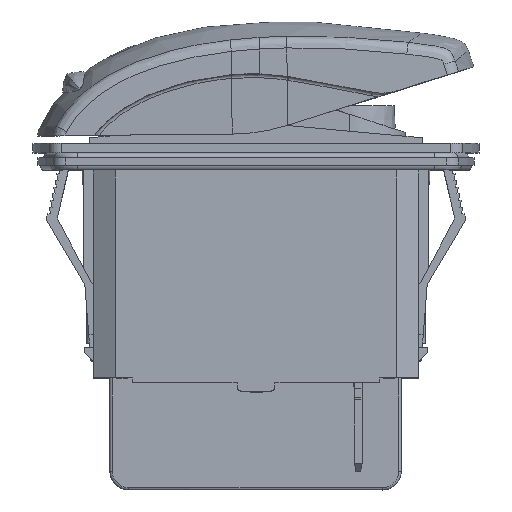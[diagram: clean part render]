
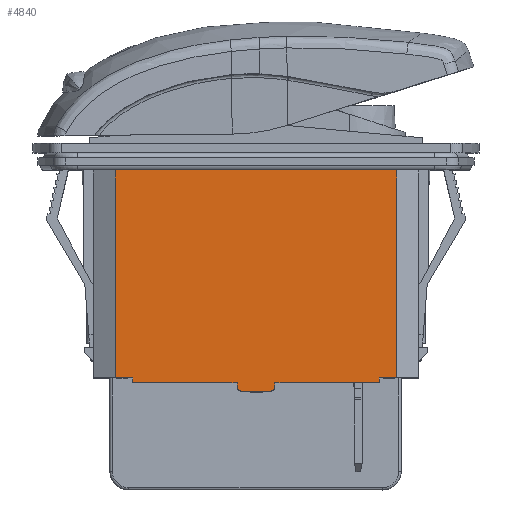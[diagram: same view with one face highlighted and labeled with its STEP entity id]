
A CAD part, top view. The second image highlights one B-rep face of the part: STEP entity #4840.
In plain terms, the highlighted planar face has unit normal (0, 0, 1).
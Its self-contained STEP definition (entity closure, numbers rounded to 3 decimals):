
#451=DIRECTION('',(1.,0.,0.));
#452=VECTOR('',#451,11.);
#453=CARTESIAN_POINT('',(2.,-24.2,10.4));
#454=LINE('',#453,#452);
#463=DIRECTION('',(1.,0.,0.));
#464=VECTOR('',#463,11.);
#465=CARTESIAN_POINT('',(-13.,-24.2,10.4));
#466=LINE('',#465,#464);
#487=DIRECTION('',(0.,1.,0.));
#488=VECTOR('',#487,0.5);
#489=CARTESIAN_POINT('',(13.,-24.2,10.4));
#490=LINE('',#489,#488);
#653=DIRECTION('',(0.,1.,0.));
#654=VECTOR('',#653,0.4);
#655=CARTESIAN_POINT('',(-2.,-24.6,10.4));
#656=LINE('',#655,#654);
#657=DIRECTION('',(0.,1.,0.));
#658=VECTOR('',#657,0.5);
#659=CARTESIAN_POINT('',(-13.,-24.2,10.4));
#660=LINE('',#659,#658);
#661=DIRECTION('',(-1.,0.,0.));
#662=VECTOR('',#661,1.812);
#663=CARTESIAN_POINT('',(-13.,-23.7,10.4));
#664=LINE('',#663,#662);
#665=DIRECTION('',(1.,0.,0.));
#666=VECTOR('',#665,29.623);
#667=CARTESIAN_POINT('',(-14.812,0.,10.4));
#668=LINE('',#667,#666);
#669=DIRECTION('',(0.,-1.,0.));
#670=VECTOR('',#669,23.7);
#671=CARTESIAN_POINT('',(14.812,0.,10.4));
#672=LINE('',#671,#670);
#673=DIRECTION('',(-1.,0.,0.));
#674=VECTOR('',#673,1.812);
#675=CARTESIAN_POINT('',(14.812,-23.7,10.4));
#676=LINE('',#675,#674);
#677=DIRECTION('',(0.,-1.,0.));
#678=VECTOR('',#677,0.4);
#679=CARTESIAN_POINT('',(2.,-24.2,10.4));
#680=LINE('',#679,#678);
#681=CARTESIAN_POINT('',(1.5,-24.6,10.4));
#682=DIRECTION('',(0.,0.,-1.));
#683=DIRECTION('',(1.,0.,0.));
#684=AXIS2_PLACEMENT_3D('',#681,#682,#683);
#686=DIRECTION('',(-1.,0.,0.));
#687=VECTOR('',#686,3.);
#688=CARTESIAN_POINT('',(1.5,-25.1,10.4));
#689=LINE('',#688,#687);
#690=CARTESIAN_POINT('',(-1.5,-24.6,10.4));
#691=DIRECTION('',(0.,0.,-1.));
#692=DIRECTION('',(0.,-1.,0.));
#693=AXIS2_PLACEMENT_3D('',#690,#691,#692);
#695=DIRECTION('',(0.,-1.,0.));
#696=VECTOR('',#695,23.7);
#697=CARTESIAN_POINT('',(-14.812,0.,10.4));
#698=LINE('',#697,#696);
#2983=CARTESIAN_POINT('',(-14.812,0.,10.4));
#2984=CARTESIAN_POINT('',(14.812,0.,10.4));
#2985=VERTEX_POINT('',#2983);
#2986=VERTEX_POINT('',#2984);
#3183=CARTESIAN_POINT('',(-14.812,-23.7,10.4));
#3184=VERTEX_POINT('',#3183);
#3185=CARTESIAN_POINT('',(-13.,-23.7,10.4));
#3186=VERTEX_POINT('',#3185);
#3233=CARTESIAN_POINT('',(13.,-23.7,10.4));
#3234=VERTEX_POINT('',#3233);
#3235=CARTESIAN_POINT('',(14.812,-23.7,10.4));
#3236=VERTEX_POINT('',#3235);
#3423=CARTESIAN_POINT('',(-1.5,-25.1,10.4));
#3424=VERTEX_POINT('',#3423);
#3425=CARTESIAN_POINT('',(1.5,-25.1,10.4));
#3426=VERTEX_POINT('',#3425);
#3477=CARTESIAN_POINT('',(-13.,-24.2,10.4));
#3478=VERTEX_POINT('',#3477);
#3497=CARTESIAN_POINT('',(2.,-24.2,10.4));
#3498=VERTEX_POINT('',#3497);
#3499=CARTESIAN_POINT('',(13.,-24.2,10.4));
#3500=VERTEX_POINT('',#3499);
#3501=CARTESIAN_POINT('',(-2.,-24.2,10.4));
#3502=VERTEX_POINT('',#3501);
#3511=CARTESIAN_POINT('',(2.,-24.6,10.4));
#3512=VERTEX_POINT('',#3511);
#3513=CARTESIAN_POINT('',(-2.,-24.6,10.4));
#3514=VERTEX_POINT('',#3513);
#4815=CARTESIAN_POINT('',(-17.15,-23.7,10.4));
#4816=DIRECTION('',(0.,0.,1.));
#4817=DIRECTION('',(1.,0.,0.));
#4818=AXIS2_PLACEMENT_3D('',#4815,#4816,#4817);
#4819=PLANE('',#4818);
#4820=ORIENTED_EDGE('',*,*,#4783,.T.);
#4821=ORIENTED_EDGE('',*,*,#4558,.F.);
#4822=ORIENTED_EDGE('',*,*,#4488,.T.);
#4823=ORIENTED_EDGE('',*,*,#4088,.T.);
#4825=ORIENTED_EDGE('',*,*,#4824,.F.);
#4827=ORIENTED_EDGE('',*,*,#4826,.T.);
#4829=ORIENTED_EDGE('',*,*,#4828,.T.);
#4830=ORIENTED_EDGE('',*,*,#4112,.T.);
#4831=ORIENTED_EDGE('',*,*,#4589,.F.);
#4832=ORIENTED_EDGE('',*,*,#4544,.F.);
#4833=ORIENTED_EDGE('',*,*,#4648,.T.);
#4835=ORIENTED_EDGE('',*,*,#4834,.T.);
#4836=ORIENTED_EDGE('',*,*,#4172,.T.);
#4837=ORIENTED_EDGE('',*,*,#4809,.T.);
#4838=EDGE_LOOP('',(#4820,#4821,#4822,#4823,#4825,#4827,#4829,#4830,#4831,#4832,
#4833,#4835,#4836,#4837));
#4839=FACE_OUTER_BOUND('',#4838,.F.);
#4840=ADVANCED_FACE('',(#4839),#4819,.T.);
#685=CIRCLE('',#684,0.5);
#694=CIRCLE('',#693,0.5);
#4088=EDGE_CURVE('',#3186,#3184,#664,.T.);
#4112=EDGE_CURVE('',#3236,#3234,#676,.T.);
#4172=EDGE_CURVE('',#3426,#3424,#689,.T.);
#4488=EDGE_CURVE('',#3478,#3186,#660,.T.);
#4544=EDGE_CURVE('',#3498,#3500,#454,.T.);
#4558=EDGE_CURVE('',#3478,#3502,#466,.T.);
#4589=EDGE_CURVE('',#3500,#3234,#490,.T.);
#4648=EDGE_CURVE('',#3498,#3512,#680,.T.);
#4783=EDGE_CURVE('',#3514,#3502,#656,.T.);
#4809=EDGE_CURVE('',#3424,#3514,#694,.T.);
#4824=EDGE_CURVE('',#2985,#3184,#698,.T.);
#4826=EDGE_CURVE('',#2985,#2986,#668,.T.);
#4828=EDGE_CURVE('',#2986,#3236,#672,.T.);
#4834=EDGE_CURVE('',#3512,#3426,#685,.T.);
